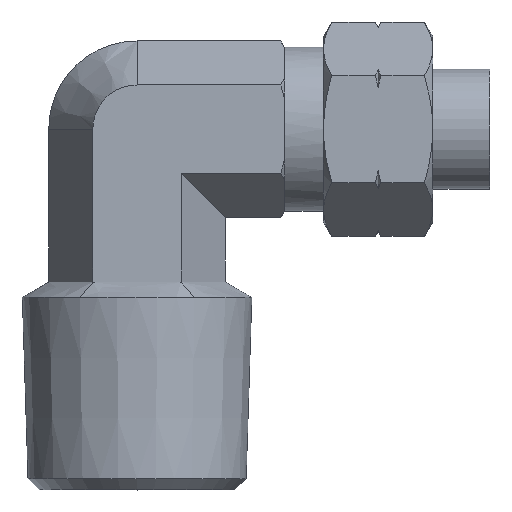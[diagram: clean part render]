
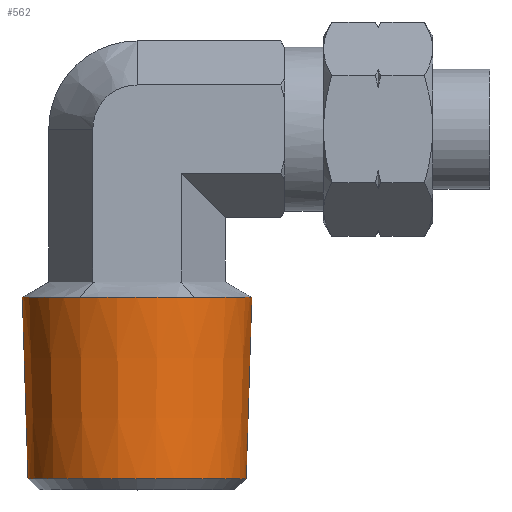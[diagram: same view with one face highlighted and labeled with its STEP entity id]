
A CAD part, top view. The second image highlights one B-rep face of the part: STEP entity #562.
In plain terms, the highlighted conical face has half-angle 1.79 degrees and reference radius 10.241 mm.
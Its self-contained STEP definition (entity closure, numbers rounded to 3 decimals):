
#225=CARTESIAN_POINT('',(-5.25,17.604,-9.093));
#226=VERTEX_POINT('',#225);
#227=CARTESIAN_POINT('',(-10.5,17.604,0.0));
#228=VERTEX_POINT('',#227);
#229=CARTESIAN_POINT('',(0.0,17.604,0.0));
#230=DIRECTION('',(0.0,1.0,0.0));
#231=DIRECTION('',(-1.0,0.0,0.0));
#232=AXIS2_PLACEMENT_3D('',#229,#230,#231);
#233=CIRCLE('',#232,10.5);
#234=EDGE_CURVE('',#226,#228,#233,.T.);
#292=CARTESIAN_POINT('',(5.25,17.604,-9.093));
#293=VERTEX_POINT('',#292);
#294=CARTESIAN_POINT('',(0.0,17.604,0.0));
#295=DIRECTION('',(0.0,1.0,0.0));
#296=DIRECTION('',(-1.0,0.0,0.0));
#297=AXIS2_PLACEMENT_3D('',#294,#295,#296);
#298=CIRCLE('',#297,10.5);
#299=EDGE_CURVE('',#293,#226,#298,.T.);
#349=CARTESIAN_POINT('',(10.5,17.604,0.));
#350=VERTEX_POINT('',#349);
#351=CARTESIAN_POINT('',(0.0,17.604,0.0));
#352=DIRECTION('',(0.0,1.0,0.0));
#353=DIRECTION('',(-1.0,0.0,0.0));
#354=AXIS2_PLACEMENT_3D('',#351,#352,#353);
#355=CIRCLE('',#354,10.5);
#356=EDGE_CURVE('',#350,#293,#355,.T.);
#406=CARTESIAN_POINT('',(5.25,17.604,9.093));
#407=VERTEX_POINT('',#406);
#408=CARTESIAN_POINT('',(0.0,17.604,0.0));
#409=DIRECTION('',(0.0,1.0,0.0));
#410=DIRECTION('',(-1.0,0.0,0.0));
#411=AXIS2_PLACEMENT_3D('',#408,#409,#410);
#412=CIRCLE('',#411,10.5);
#413=EDGE_CURVE('',#407,#350,#412,.T.);
#463=CARTESIAN_POINT('',(-5.25,17.604,9.093));
#464=VERTEX_POINT('',#463);
#465=CARTESIAN_POINT('',(0.0,17.604,0.0));
#466=DIRECTION('',(0.0,1.0,0.0));
#467=DIRECTION('',(-1.0,0.0,0.0));
#468=AXIS2_PLACEMENT_3D('',#465,#466,#467);
#469=CIRCLE('',#468,10.5);
#470=EDGE_CURVE('',#464,#407,#469,.T.);
#520=CARTESIAN_POINT('',(0.0,17.604,0.0));
#521=DIRECTION('',(0.0,1.0,0.0));
#522=DIRECTION('',(-1.0,0.0,0.0));
#523=AXIS2_PLACEMENT_3D('',#520,#521,#522);
#524=CIRCLE('',#523,10.5);
#525=EDGE_CURVE('',#228,#464,#524,.T.);
#538=CARTESIAN_POINT('',(0.0,9.302,0.0));
#539=DIRECTION('',(0.0,1.0,0.0));
#540=DIRECTION('',(-1.0,0.0,0.0));
#541=AXIS2_PLACEMENT_3D('',#538,#539,#540);
#542=CONICAL_SURFACE('',#541,10.241,1.79);
#543=ORIENTED_EDGE('',*,*,#525,.F.);
#544=ORIENTED_EDGE('',*,*,#234,.F.);
#545=ORIENTED_EDGE('',*,*,#299,.F.);
#546=ORIENTED_EDGE('',*,*,#356,.F.);
#547=ORIENTED_EDGE('',*,*,#413,.F.);
#548=ORIENTED_EDGE('',*,*,#470,.F.);
#549=EDGE_LOOP('',(#543,#544,#545,#546,#547,#548));
#550=FACE_OUTER_BOUND('',#549,.T.);
#551=CARTESIAN_POINT('',(-9.981,1.,0.0));
#552=VERTEX_POINT('',#551);
#553=CARTESIAN_POINT('',(0.0,1.,0.0));
#554=DIRECTION('',(0.0,1.0,0.0));
#555=DIRECTION('',(-1.0,0.0,0.0));
#556=AXIS2_PLACEMENT_3D('',#553,#554,#555);
#557=CIRCLE('',#556,9.981);
#558=EDGE_CURVE('',#552,#552,#557,.T.);
#559=ORIENTED_EDGE('',*,*,#558,.T.);
#560=EDGE_LOOP('',(#559));
#561=FACE_BOUND('',#560,.T.);
#562=ADVANCED_FACE('',(#550,#561),#542,.T.);
